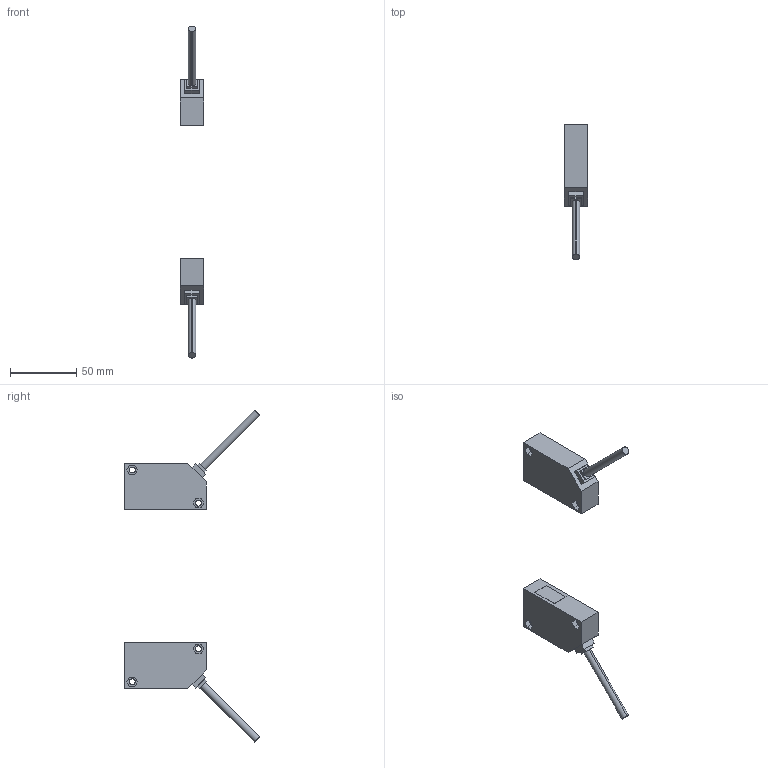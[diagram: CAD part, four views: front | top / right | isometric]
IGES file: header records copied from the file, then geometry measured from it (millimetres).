
Start section: SolidWorks IGES file using analytic representation for surfaces
Global section: file name: C:\catalog\NX5-M10RA.IGS; native system: SolidWorks 2005 by SolidWorks Corporation; preprocessor: SolidWorks 2005 by SolidWorks Corporation; author: yk0651; date: 070801.112936; units: millimetre
Bounding box: 18 x 102.31 x 250.74 mm (x, y, z)
Surface area: 18795.4 mm2 (no closed solid volume)
Topology: 0 solids, 0 shells, 128 faces, 1164 edges, 1164 vertices
Faces by surface type: bspline 110, revolution 18
